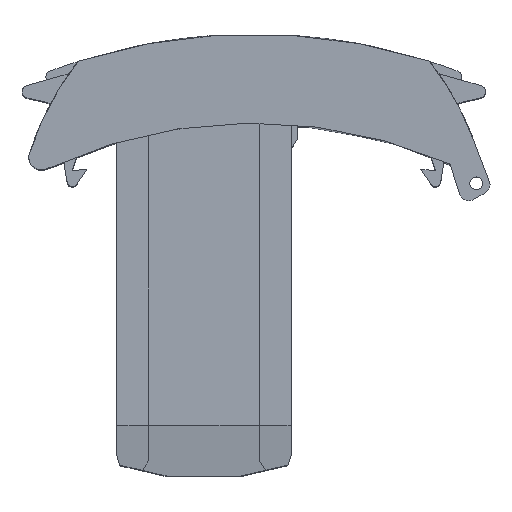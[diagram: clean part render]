
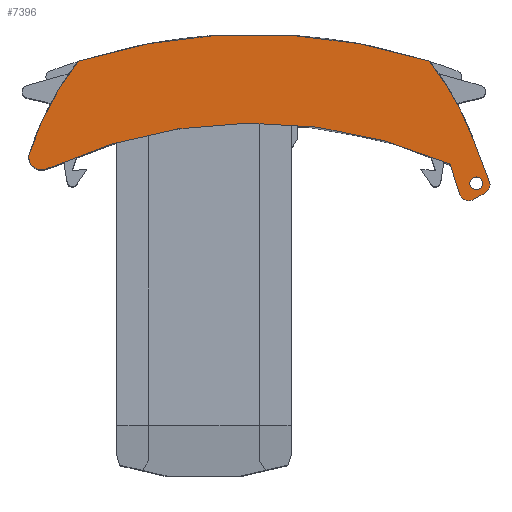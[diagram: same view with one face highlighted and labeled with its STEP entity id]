
A CAD part, top view. The second image highlights one B-rep face of the part: STEP entity #7396.
In plain terms, the highlighted planar face has unit normal (0, 0, 1).
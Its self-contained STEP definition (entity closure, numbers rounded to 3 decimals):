
#254=CARTESIAN_POINT('',(30.773,-6.399,65.2));
#255=VERTEX_POINT('',#254);
#262=CARTESIAN_POINT('',(-32.503,-7.176,65.2));
#263=VERTEX_POINT('',#262);
#264=CARTESIAN_POINT('',(0.,-77.2,65.2));
#265=DIRECTION('',(0.,-0.,1.));
#266=DIRECTION('',(-1.,-0.,0.));
#267=AXIS2_PLACEMENT_3D('',#264,#265,#266);
#268=CIRCLE('',#267,77.2);
#269=EDGE_CURVE('',#255,#263,#268,.T.);
#6935=CARTESIAN_POINT('',(27.591,9.726,65.2));
#6936=VERTEX_POINT('',#6935);
#6943=CARTESIAN_POINT('',(34.405,-2.352,65.2));
#6944=VERTEX_POINT('',#6943);
#6945=CARTESIAN_POINT('',(-9.49,-19.153,65.2));
#6946=DIRECTION('',(-0.,0.,-1.));
#6947=DIRECTION('',(-1.,-0.,0.));
#6948=AXIS2_PLACEMENT_3D('',#6945,#6946,#6947);
#6949=CIRCLE('',#6948,47.);
#6950=EDGE_CURVE('',#6936,#6944,#6949,.T.);
#7281=CARTESIAN_POINT('',(33.937,-9.473,65.2));
#7282=VERTEX_POINT('',#7281);
#7291=CARTESIAN_POINT('',(34.937,-9.473,65.2));
#7292=DIRECTION('',(-0.,0.,-1.));
#7293=DIRECTION('',(-1.,-0.,0.));
#7294=AXIS2_PLACEMENT_3D('',#7291,#7292,#7293);
#7295=CIRCLE('',#7294,1.);
#7296=EDGE_CURVE('',#7282,#7282,#7295,.T.);
#7301=CARTESIAN_POINT('',(28.565,3.501,65.2));
#7302=DIRECTION('',(-0.,0.,-1.));
#7303=DIRECTION('',(-1.,-0.,0.));
#7304=AXIS2_PLACEMENT_3D('',#7301,#7302,#7303);
#7305=PLANE('',#7304);
#7306=CARTESIAN_POINT('',(37.,-9.132,65.2));
#7307=VERTEX_POINT('',#7306);
#7308=CARTESIAN_POINT('',(34.405,-2.352,65.2));
#7309=DIRECTION('',(0.357,-0.934,-0.));
#7310=VECTOR('',#7309,7.26);
#7311=LINE('',#7308,#7310);
#7312=EDGE_CURVE('',#6944,#7307,#7311,.T.);
#7313=ORIENTED_EDGE('',*,*,#7312,.F.);
#7314=ORIENTED_EDGE('',*,*,#6950,.F.);
#7315=CARTESIAN_POINT('',(-27.591,9.726,65.2));
#7316=VERTEX_POINT('',#7315);
#7317=CARTESIAN_POINT('',(-0.,-77.2,65.2));
#7318=DIRECTION('',(-0.,0.,-1.));
#7319=DIRECTION('',(1.,0.,-0.));
#7320=AXIS2_PLACEMENT_3D('',#7317,#7318,#7319);
#7321=CIRCLE('',#7320,91.2);
#7322=EDGE_CURVE('',#7316,#6936,#7321,.T.);
#7323=ORIENTED_EDGE('',*,*,#7322,.F.);
#7324=CARTESIAN_POINT('',(-35.249,-4.749,65.2));
#7325=VERTEX_POINT('',#7324);
#7326=CARTESIAN_POINT('',(9.49,-19.153,65.2));
#7327=DIRECTION('',(0.,-0.,1.));
#7328=DIRECTION('',(1.,0.,-0.));
#7329=AXIS2_PLACEMENT_3D('',#7326,#7327,#7328);
#7330=CIRCLE('',#7329,47.);
#7331=EDGE_CURVE('',#7316,#7325,#7330,.T.);
#7332=ORIENTED_EDGE('',*,*,#7331,.T.);
#7333=CARTESIAN_POINT('',(-35.345,-5.362,65.2));
#7334=VERTEX_POINT('',#7333);
#7335=CARTESIAN_POINT('',(-33.345,-5.362,65.2));
#7336=DIRECTION('',(0.,-0.,1.));
#7337=DIRECTION('',(1.,0.,-0.));
#7338=AXIS2_PLACEMENT_3D('',#7335,#7336,#7337);
#7339=CIRCLE('',#7338,2.);
#7340=EDGE_CURVE('',#7325,#7334,#7339,.T.);
#7341=ORIENTED_EDGE('',*,*,#7340,.T.);
#7342=CARTESIAN_POINT('',(-33.345,-5.362,65.2));
#7343=DIRECTION('',(0.,-0.,1.));
#7344=DIRECTION('',(1.,0.,-0.));
#7345=AXIS2_PLACEMENT_3D('',#7342,#7343,#7344);
#7346=CIRCLE('',#7345,2.);
#7347=EDGE_CURVE('',#7334,#263,#7346,.T.);
#7348=ORIENTED_EDGE('',*,*,#7347,.T.);
#7349=ORIENTED_EDGE('',*,*,#269,.F.);
#7350=CARTESIAN_POINT('',(32.343,-11.192,65.2));
#7351=VERTEX_POINT('',#7350);
#7352=CARTESIAN_POINT('',(32.343,-11.192,65.2));
#7353=DIRECTION('',(-0.311,0.95,0.));
#7354=VECTOR('',#7353,5.044);
#7355=LINE('',#7352,#7354);
#7356=EDGE_CURVE('',#7351,#255,#7355,.T.);
#7357=ORIENTED_EDGE('',*,*,#7356,.F.);
#7358=CARTESIAN_POINT('',(34.518,-12.024,65.2));
#7359=VERTEX_POINT('',#7358);
#7360=CARTESIAN_POINT('',(33.768,-10.725,65.2));
#7361=DIRECTION('',(-0.,0.,-1.));
#7362=DIRECTION('',(-1.,-0.,0.));
#7363=AXIS2_PLACEMENT_3D('',#7360,#7361,#7362);
#7364=CIRCLE('',#7363,1.5);
#7365=EDGE_CURVE('',#7359,#7351,#7364,.T.);
#7366=ORIENTED_EDGE('',*,*,#7365,.F.);
#7367=CARTESIAN_POINT('',(36.349,-10.967,65.2));
#7368=VERTEX_POINT('',#7367);
#7369=CARTESIAN_POINT('',(36.349,-10.967,65.2));
#7370=DIRECTION('',(-0.866,-0.5,0.));
#7371=VECTOR('',#7370,2.114);
#7372=LINE('',#7369,#7371);
#7373=EDGE_CURVE('',#7368,#7359,#7372,.T.);
#7374=ORIENTED_EDGE('',*,*,#7373,.F.);
#7375=CARTESIAN_POINT('',(37.099,-9.668,65.2));
#7376=VERTEX_POINT('',#7375);
#7377=CARTESIAN_POINT('',(35.599,-9.668,65.2));
#7378=DIRECTION('',(-0.,0.,-1.));
#7379=DIRECTION('',(-1.,-0.,0.));
#7380=AXIS2_PLACEMENT_3D('',#7377,#7378,#7379);
#7381=CIRCLE('',#7380,1.5);
#7382=EDGE_CURVE('',#7376,#7368,#7381,.T.);
#7383=ORIENTED_EDGE('',*,*,#7382,.F.);
#7384=CARTESIAN_POINT('',(35.599,-9.668,65.2));
#7385=DIRECTION('',(-0.,0.,-1.));
#7386=DIRECTION('',(-1.,-0.,0.));
#7387=AXIS2_PLACEMENT_3D('',#7384,#7385,#7386);
#7388=CIRCLE('',#7387,1.5);
#7389=EDGE_CURVE('',#7307,#7376,#7388,.T.);
#7390=ORIENTED_EDGE('',*,*,#7389,.F.);
#7391=EDGE_LOOP('',(#7313,#7314,#7323,#7332,#7341,#7348,#7349,#7357,#7366,#7374,#7383,#7390));
#7392=FACE_BOUND('',#7391,.T.);
#7393=ORIENTED_EDGE('',*,*,#7296,.T.);
#7394=EDGE_LOOP('',(#7393));
#7395=FACE_BOUND('',#7394,.T.);
#7396=ADVANCED_FACE('',(#7392,#7395),#7305,.F.);
